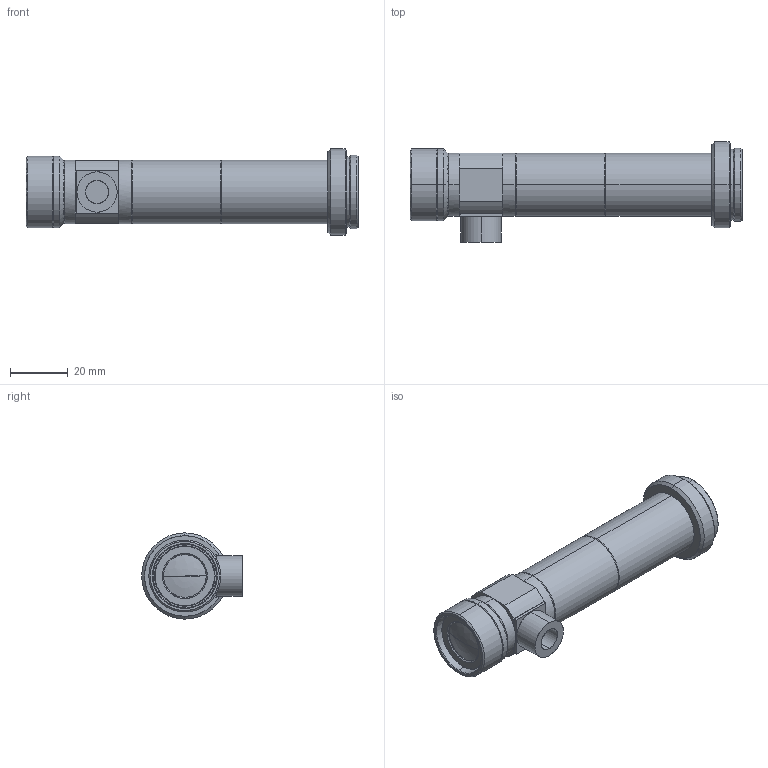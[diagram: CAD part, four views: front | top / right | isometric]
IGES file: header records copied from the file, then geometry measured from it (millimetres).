
Start section: SolidWorks IGES file using analytic representation for surfaces
Global section: file name: \\192.168.1.203\Development\02 テレセントリックレンズ\02 VS-TCH Series\60-65mm\030 VS-TCH3-60&CO\3D\TCH3-60CO.IGS; native system: SolidWorks 2014; preprocessor: SolidWorks 2014; author: gijutu-1; date: 140407.091139; units: millimetre
Bounding box: 115.4 x 35 x 30 mm (x, y, z)
Surface area: 15819.5 mm2 (no closed solid volume)
Topology: 0 solids, 0 shells, 163 faces, 1910 edges, 1908 vertices
Faces by surface type: revolution 126, bspline 37
